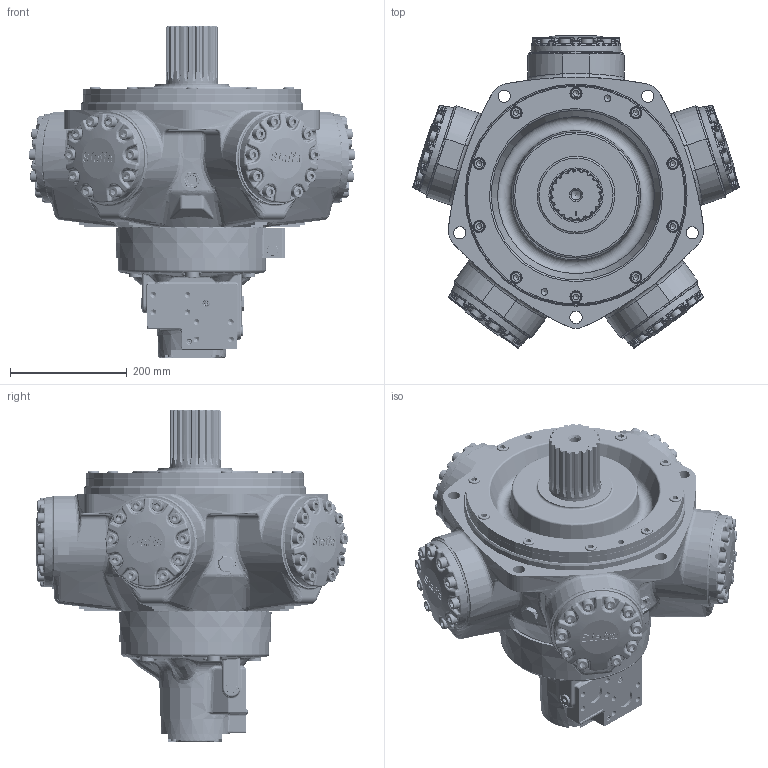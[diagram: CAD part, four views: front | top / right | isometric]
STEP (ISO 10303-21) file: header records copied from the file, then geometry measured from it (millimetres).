
FILE_DESCRIPTION(/* description */ (''),/* implementation_level */ '2;1');
FILE_NAME(/* name */ 'HMC 125_S3_FM3_CS_72.stp',/* time_stamp */ '2025-04-28T08:57:01+01:00',/* author */ ('ccallanga'),/* organization */ (''),/* preprocessor_version */ 'ST-DEVELOPER v20',/* originating_system */ 'Autodesk Inventor 2024',/* authorisation */ '');
FILE_SCHEMA (('AUTOMOTIVE_DESIGN { 1 0 10303 214 3 1 1 }'));
Products named in the file (1): 017750 HMC125 WEBSITE ASSEMBLY_Simplify_1
Bounding box: 560.12 x 535.2 x 569.37 mm (x, y, z)
Volume: 40972124.6 mm3; surface area: 1102030.5 mm2
Topology: 1 solids, 1 shells, 5046 faces, 12232 edges, 7250 vertices
Faces by surface type: bspline 1775, plane 1342, cylinder 1065, torus 498, cone 220, sphere 146
Full cylindrical faces by diameter (mm): 4 x6, 4.134 x4, 5.5 x4, 9.4 x1, 10.109 x8, 11.328 x4, 11.913 x4, 11.938 x3, 12 x1, 12.7 x4, 16.51 x1, 17.323 x1, 19 x3, 19.05 x60, 20.637 x60, 21 x5, 23.825 x5, 24.892 x1, 25 x1, 25.4 x5, 26.92 x2, 27.495 x1, 27.94 x1, 31.75 x2, 38.1 x3, 68.58 x1, 87.889 x1, 88.837 x1, 92.964 x1, 127 x1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
Entity records: 229787 total; most frequent: CARTESIAN_POINT 120667, ORIENTED_EDGE 23994, DIRECTION 17740, EDGE_CURVE 11997, VERTEX_POINT 7250, AXIS2_PLACEMENT_3D 6992, EDGE_LOOP 5353, STYLED_ITEM 5047
